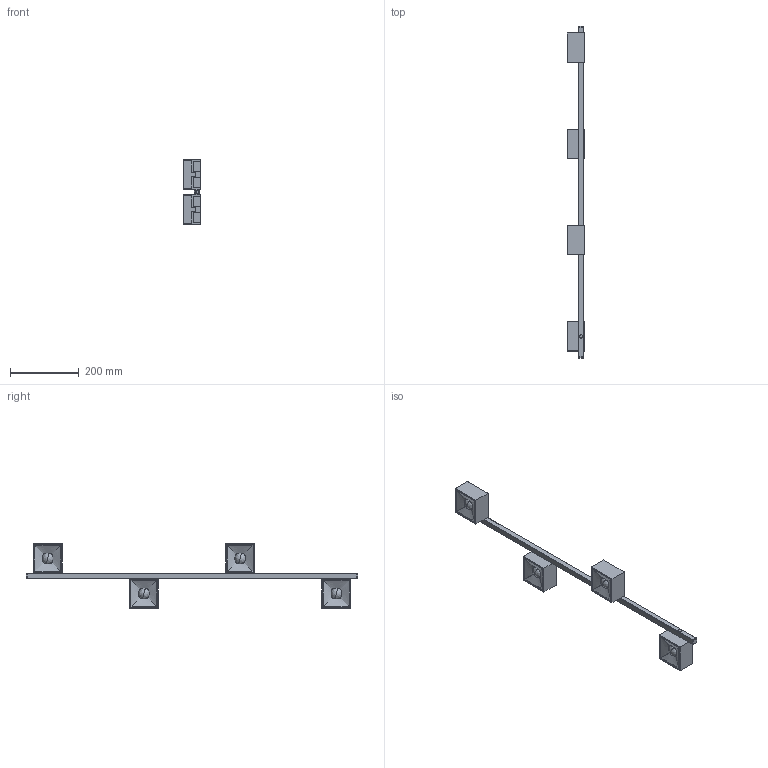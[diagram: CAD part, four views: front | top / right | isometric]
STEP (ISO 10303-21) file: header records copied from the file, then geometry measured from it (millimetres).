
FILE_DESCRIPTION((''),'2;1');
FILE_NAME('PR158_KALEO_COMPOSIZIONE_ASM','2026-02-24T11:54:01',('Bonardi'),(''),'CREO PARAMETRIC BY PTC INC, 2025010','CREO PARAMETRIC BY PTC INC, 2025010','');
FILE_SCHEMA(('CONFIG_CONTROL_DESIGN'));
Products named in the file (8): CMPF800G; ACLF400W; RIF8000X; CMDF811G; PR158_KALEO_ASM; CMEF8Q2G; ACTEF80X; PR158_KALEO_COMPOSIZIONE_ASM
Assembly tree (14 placements, depth 3):
  PR158_KALEO_COMPOSIZIONE_ASM
    CMPF800G  x4
    PR158_KALEO_ASM  x4
      ACLF400W
      RIF8000X
      CMDF811G
    CMEF8Q2G
    ACTEF80X  x2
Bounding box: 52 x 966 x 187 mm (x, y, z)
Volume: 596397.8 mm3; surface area: 379103.7 mm2
Topology: 19 solids, 43 shells, 3600 faces, 9178 edges, 5664 vertices
Faces by surface type: bspline 1848, cylinder 561, plane 501, torus 354, sphere 172, cone 164
Entity records: 43122 total; most frequent: CARTESIAN_POINT 22507, ORIENTED_EDGE 4894, DIRECTION 3489, EDGE_CURVE 2485, VERTEX_POINT 1537, AXIS2_PLACEMENT_3D 1489, B_SPLINE_CURVE_WITH_KNOTS 1022, EDGE_LOOP 1016
